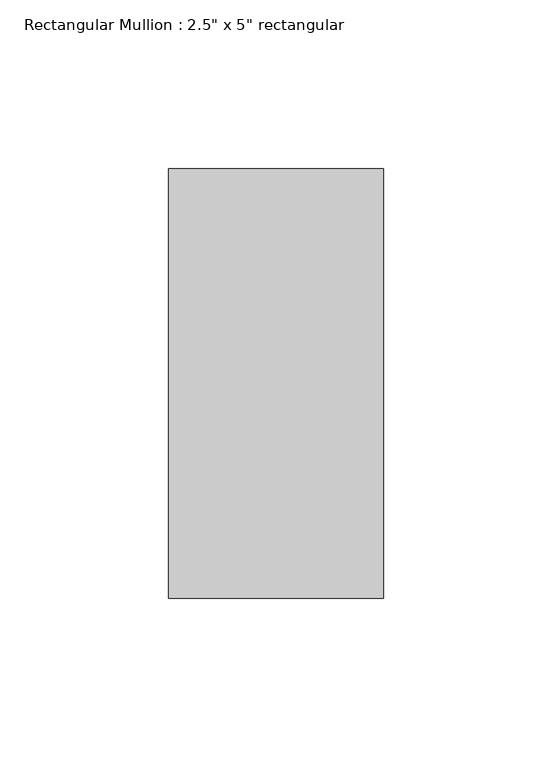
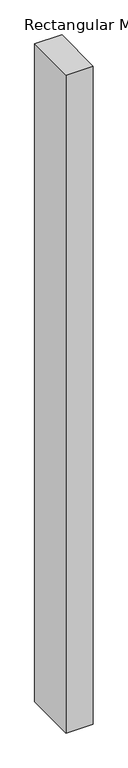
"""IFC4 building model written with IfcOpenShell, lengths in millimetres: member geometry."""

from ifc_helpers import new_model, si_unit, frame, origin, place, context, project, spatial, polyline, outline, extrude, source, transform, mapped, element, save


def member_7cae6691(model_context):
    return source(origin(), model_context, "Body", "SweptSolid", [
        extrude(outline(polyline([(0.0, 76.2), (0.0, -50.8), (-63.5, -50.8), (-63.5, 76.2), (0.0, 76.2)])), frame((0.0, 0.0, -1625.6), z_axis=(0.0, 0.0, 1.0), x_axis=(1.0, 0.0, 0.0)), (0.0, 0.0, 1.0), 1625.6),
    ])


if __name__ == "__main__":
    model = new_model("IFC4")
    model_context = context("Model", 3, world=origin())
    ifc_project = project(units=[si_unit("LENGTHUNIT", "METRE", prefix="MILLI")], contexts=[model_context])
    site = spatial("IfcSite", under=ifc_project)
    building = spatial("IfcBuilding", under=site)
    placement = place(None, origin())
    member_shape = member_7cae6691(model_context)
    element("IfcMember", 1, ObjectType="Rectangular Mullion : 2.5\" x 5\" rectangular", at=placement, inside=building, context=model_context, shape_type="MappedRepresentation", body=[
        mapped(member_shape, transform((0.0, 0.0, 0.0), x_axis=(1.0, 0.0, 0.0), y_axis=(0.0, 1.0, 0.0), z_axis=(0.0, 0.0, 1.0))),
    ])
    save(model, "model.ifc")
